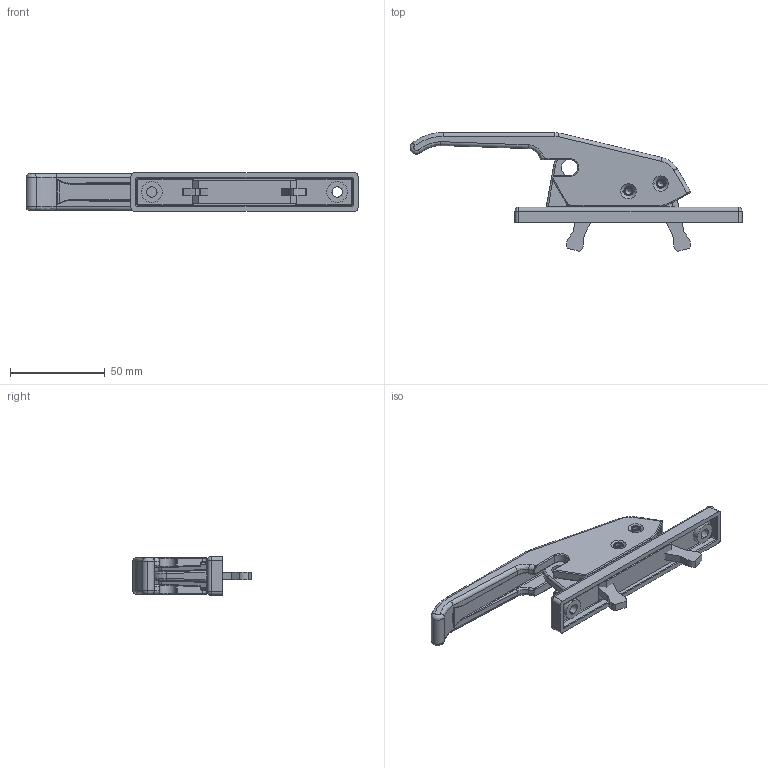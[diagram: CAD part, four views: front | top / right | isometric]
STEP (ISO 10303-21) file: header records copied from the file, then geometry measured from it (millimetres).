
FILE_DESCRIPTION (( 'STEP AP203' ), '1' );
FILE_NAME ('MS887A1D000001+MS887-2.STEP', '2022-10-06T07:01:48', ( 'SJ' ), ( '' ), 'SwSTEP 2.0', 'SolidWorks 2020', '' );
FILE_SCHEMA (( 'CONFIG_CONTROL_DESIGN' ));
Length unit declared in the file: millimetre
Products named in the file (1): MS887A1D000001+MS887-2
Bounding box: 175.5 x 62.89 x 20.5 mm (x, y, z)
Volume: 60117.7 mm3; surface area: 31217.9 mm2
Topology: 7 solids, 7 shells, 457 faces, 1098 edges, 640 vertices
Faces by surface type: cylinder 200, bspline 126, plane 103, cone 26, torus 2
Entity records: 20244 total; most frequent: CARTESIAN_POINT 10762, ORIENTED_EDGE 2146, DIRECTION 1699, EDGE_CURVE 1073, VERTEX_POINT 640, AXIS2_PLACEMENT_3D 639, EDGE_LOOP 489, ADVANCED_FACE 457
